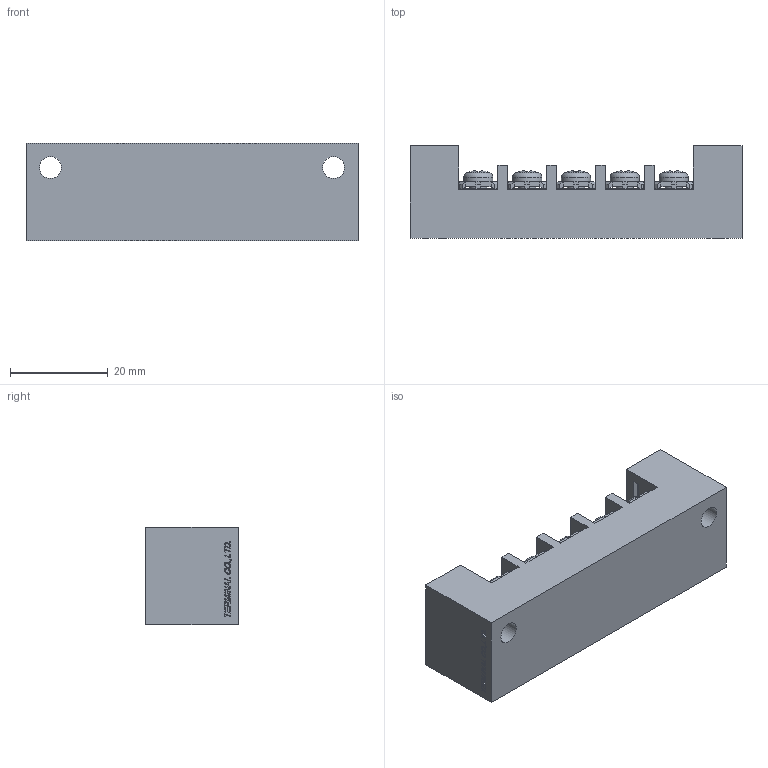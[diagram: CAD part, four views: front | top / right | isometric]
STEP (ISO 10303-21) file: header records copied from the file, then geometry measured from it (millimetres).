
FILE_DESCRIPTION(/* description */ ('Alibre Inc.'),/* implementation_level */ '2;1');
FILE_NAME(/* name */ 'export0',/* time_stamp */ '2016-02-13T17:50:51+09:00',/* author */ (''),/* organization */ (''),/* preprocessor_version */ 'ST-DEVELOPER v14',/* originating_system */ 'Alibre',/* authorisation */ '');
FILE_SCHEMA (('CONFIG_CONTROL_DESIGN'));
Length unit declared in the file: centimetre
Products named in the file (1): ID_1
Bounding box: 68 x 19 x 20 mm (x, y, z)
Volume: 17959.3 mm3; surface area: 9309.3 mm2
Topology: 1 solids, 11 shells, 1135 faces, 3066 edges, 1944 vertices
Faces by surface type: plane 769, bspline 212, cone 50, extrusion 40, cylinder 34, sphere 20, torus 10
Full cylindrical faces by diameter (mm): 3.5 x20, 4.5 x2, 6 x10, 7 x2
Entity records: 40148 total; most frequent: CARTESIAN_POINT 14742, ORIENTED_EDGE 5984, DIRECTION 3647, EDGE_CURVE 2992, VECTOR 2061, LINE 2041, VERTEX_POINT 1924, EDGE_LOOP 1274
